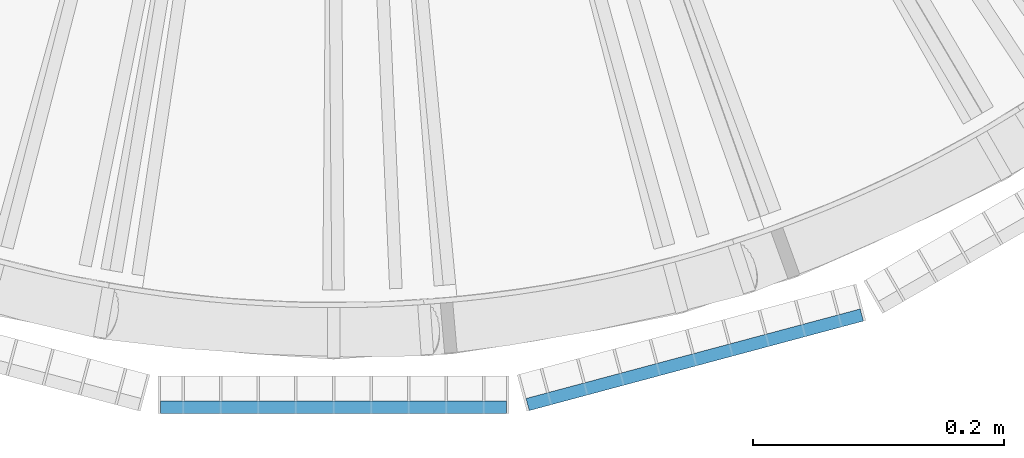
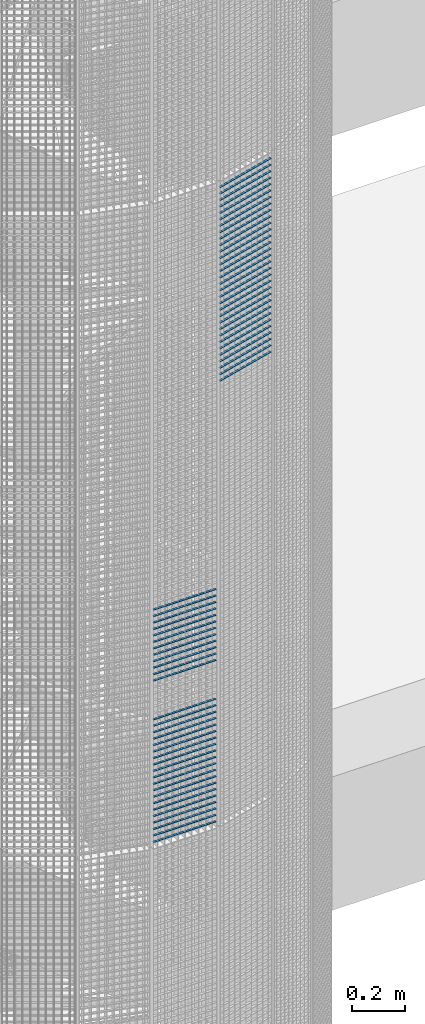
# One storey, part 389 of 1148: 63 beams, 2 elements without a shape of their own.
"""IFC2X3 building model written with IfcOpenShell, lengths in millimetres."""

from ifc_helpers import new_model, si_unit, frame, origin_with_axes, origin_2d_with_axis, place, context, subcontext, project, spatial, rectangle, extrude, material, type_object, element, aggregate, save


model = new_model("IFC2X3")

# Units and contexts
model_context = context("Model", 3, precision=1e-05, world=origin_with_axes())
body_context = subcontext(model_context, "Body", "Model", "MODEL_VIEW")
ifc_project = project(units=[si_unit("LENGTHUNIT", "METRE", prefix="MILLI"), si_unit("AREAUNIT", "SQUARE_METRE"), si_unit("VOLUMEUNIT", "CUBIC_METRE"), si_unit("MASSUNIT", "GRAM", prefix="KILO"), si_unit("TIMEUNIT", "SECOND"), si_unit("PLANEANGLEUNIT", "RADIAN"), si_unit("SOLIDANGLEUNIT", "STERADIAN"), si_unit("THERMODYNAMICTEMPERATUREUNIT", "DEGREE_CELSIUS"), si_unit("LUMINOUSINTENSITYUNIT", "LUMEN")], contexts=[model_context])

# Site, building, storey
site_placement = place(None, origin_with_axes())
site = spatial("IfcSite", under=ifc_project, at=site_placement, Name="Undefined", CompositionType="ELEMENT")
building_placement = place(site_placement, origin_with_axes())
building = spatial("IfcBuilding", under=site, at=building_placement, Name="Undefined", CompositionType="ELEMENT")
storey_placement = place(building_placement, origin_with_axes())
storey = spatial("IfcBuildingStorey", under=building, at=storey_placement, Name="Undefined", CompositionType="ELEMENT", Elevation=0.0)

# Assembly, beams
assembly_1_placement = place(storey_placement, origin_with_axes())
assembly_1 = element("IfcElementAssembly", 1, at=assembly_1_placement, inside=storey, Name="BORDURE", AssemblyPlace="NOTDEFINED", PredefinedType="NOTDEFINED")
ifc_material = material(Name="STEEL/S235JR")
beam_type = type_object("IfcBeamType", Name="PL2*10", PredefinedType="NOTDEFINED")
beam_1_placement = place(assembly_1_placement, frame((21737.9960033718, -1113.47999999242, 9780.0), z_axis=(0.0, -1.0, 0.0), x_axis=(-1.0, 0.0, 0.0)))
beam_1 = element("IfcBeam", 2, at=beam_1_placement, type_object=beam_type, material=ifc_material, Name="ENTRETOISE", context=body_context, shape_type="SweptSolid", body=[
    extrude(rectangle(XDim=2.0, YDim=10.0, at=origin_2d_with_axis()), frame((275.999999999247, 9.09494701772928e-13, 1.53210777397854e-14), z_axis=(-1.0, 0.0, 0.0), x_axis=(0.0, -1.0, 0.0)), (0.0, 0.0, 1.0), 276.0),
])
beam_2_placement = place(assembly_1_placement, frame((21737.9960033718, -1113.47999999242, 9600.0), z_axis=(0.0, -1.0, 0.0), x_axis=(-1.0, 0.0, 0.0)))
beam_2 = element("IfcBeam", 3, at=beam_2_placement, type_object=beam_type, material=ifc_material, Name="ENTRETOISE", context=body_context, shape_type="SweptSolid", body=[
    extrude(rectangle(XDim=2.0, YDim=10.0, at=origin_2d_with_axis()), frame((275.999999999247, 9.09494701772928e-13, 1.53210777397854e-14), z_axis=(-1.0, 0.0, 0.0), x_axis=(0.0, -1.0, 0.0)), (0.0, 0.0, 1.0), 276.0),
])
beam_3_placement = place(assembly_1_placement, frame((21737.9960033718, -1113.47999999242, 9810.0), z_axis=(0.0, -1.0, 0.0), x_axis=(-1.0, 0.0, 0.0)))
beam_3 = element("IfcBeam", 4, at=beam_3_placement, type_object=beam_type, material=ifc_material, Name="ENTRETOISE", context=body_context, shape_type="SweptSolid", body=[
    extrude(rectangle(XDim=2.0, YDim=10.0, at=origin_2d_with_axis()), frame((275.999999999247, 9.09494701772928e-13, 1.53210777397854e-14), z_axis=(-1.0, 0.0, 0.0), x_axis=(0.0, -1.0, 0.0)), (0.0, 0.0, 1.0), 276.0),
])
beam_4_placement = place(assembly_1_placement, frame((21737.9960033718, -1113.47999999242, 9570.0), z_axis=(0.0, -1.0, 0.0), x_axis=(-1.0, 0.0, 0.0)))
beam_4 = element("IfcBeam", 5, at=beam_4_placement, type_object=beam_type, material=ifc_material, Name="ENTRETOISE", context=body_context, shape_type="SweptSolid", body=[
    extrude(rectangle(XDim=2.0, YDim=10.0, at=origin_2d_with_axis()), frame((275.999999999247, 9.09494701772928e-13, 1.53210777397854e-14), z_axis=(-1.0, 0.0, 0.0), x_axis=(0.0, -1.0, 0.0)), (0.0, 0.0, 1.0), 276.0),
])
beam_5_placement = place(assembly_1_placement, frame((21737.9960033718, -1113.47999999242, 9540.0), z_axis=(0.0, -1.0, 0.0), x_axis=(-1.0, 0.0, 0.0)))
beam_5 = element("IfcBeam", 6, at=beam_5_placement, type_object=beam_type, material=ifc_material, Name="ENTRETOISE", context=body_context, shape_type="SweptSolid", body=[
    extrude(rectangle(XDim=2.0, YDim=10.0, at=origin_2d_with_axis()), frame((275.999999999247, 9.09494701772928e-13, 1.53210777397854e-14), z_axis=(-1.0, 0.0, 0.0), x_axis=(0.0, -1.0, 0.0)), (0.0, 0.0, 1.0), 276.0),
])
beam_6_placement = place(assembly_1_placement, frame((21737.9960033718, -1113.47999999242, 9840.0), z_axis=(0.0, -1.0, 0.0), x_axis=(-1.0, 0.0, 0.0)))
beam_6 = element("IfcBeam", 7, at=beam_6_placement, type_object=beam_type, material=ifc_material, Name="ENTRETOISE", context=body_context, shape_type="SweptSolid", body=[
    extrude(rectangle(XDim=2.0, YDim=10.0, at=origin_2d_with_axis()), frame((275.999999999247, 9.09494701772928e-13, 1.53210777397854e-14), z_axis=(-1.0, 0.0, 0.0), x_axis=(0.0, -1.0, 0.0)), (0.0, 0.0, 1.0), 276.0),
])
beam_7_placement = place(assembly_1_placement, frame((21737.9960033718, -1113.47999999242, 9510.0), z_axis=(0.0, -1.0, 0.0), x_axis=(-1.0, 0.0, 0.0)))
beam_7 = element("IfcBeam", 8, at=beam_7_placement, type_object=beam_type, material=ifc_material, Name="ENTRETOISE", context=body_context, shape_type="SweptSolid", body=[
    extrude(rectangle(XDim=2.0, YDim=10.0, at=origin_2d_with_axis()), frame((275.999999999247, 9.09494701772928e-13, 1.53210777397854e-14), z_axis=(-1.0, 0.0, 0.0), x_axis=(0.0, -1.0, 0.0)), (0.0, 0.0, 1.0), 276.0),
])
beam_8_placement = place(assembly_1_placement, frame((21737.9960033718, -1113.47999999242, 9480.0), z_axis=(0.0, -1.0, 0.0), x_axis=(-1.0, 0.0, 0.0)))
beam_8 = element("IfcBeam", 9, at=beam_8_placement, type_object=beam_type, material=ifc_material, Name="ENTRETOISE", context=body_context, shape_type="SweptSolid", body=[
    extrude(rectangle(XDim=2.0, YDim=10.0, at=origin_2d_with_axis()), frame((275.999999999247, 9.09494701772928e-13, 1.53210777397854e-14), z_axis=(-1.0, 0.0, 0.0), x_axis=(0.0, -1.0, 0.0)), (0.0, 0.0, 1.0), 276.0),
])
beam_9_placement = place(assembly_1_placement, frame((21737.9960033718, -1113.47999999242, 9870.0), z_axis=(0.0, -1.0, 0.0), x_axis=(-1.0, 0.0, 0.0)))
beam_9 = element("IfcBeam", 10, at=beam_9_placement, type_object=beam_type, material=ifc_material, Name="ENTRETOISE", context=body_context, shape_type="SweptSolid", body=[
    extrude(rectangle(XDim=2.0, YDim=10.0, at=origin_2d_with_axis()), frame((275.999999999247, 9.09494701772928e-13, 1.53210777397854e-14), z_axis=(-1.0, 0.0, 0.0), x_axis=(0.0, -1.0, 0.0)), (0.0, 0.0, 1.0), 276.0),
])
beam_10_placement = place(assembly_1_placement, frame((21737.9960033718, -1113.47999999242, 9450.0), z_axis=(0.0, -1.0, 0.0), x_axis=(-1.0, 0.0, 0.0)))
beam_10 = element("IfcBeam", 11, at=beam_10_placement, type_object=beam_type, material=ifc_material, Name="ENTRETOISE", context=body_context, shape_type="SweptSolid", body=[
    extrude(rectangle(XDim=2.0, YDim=10.0, at=origin_2d_with_axis()), frame((275.999999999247, 9.09494701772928e-13, 1.53210777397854e-14), z_axis=(-1.0, 0.0, 0.0), x_axis=(0.0, -1.0, 0.0)), (0.0, 0.0, 1.0), 276.0),
])
beam_11_placement = place(assembly_1_placement, frame((21737.9960033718, -1113.47999999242, 9420.0), z_axis=(0.0, -1.0, 0.0), x_axis=(-1.0, 0.0, 0.0)))
beam_11 = element("IfcBeam", 12, at=beam_11_placement, type_object=beam_type, material=ifc_material, Name="ENTRETOISE", context=body_context, shape_type="SweptSolid", body=[
    extrude(rectangle(XDim=2.0, YDim=10.0, at=origin_2d_with_axis()), frame((275.999999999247, 9.09494701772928e-13, 1.53210777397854e-14), z_axis=(-1.0, 0.0, 0.0), x_axis=(0.0, -1.0, 0.0)), (0.0, 0.0, 1.0), 276.0),
])
beam_12_placement = place(assembly_1_placement, frame((21737.9960033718, -1113.47999999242, 9900.0), z_axis=(0.0, -1.0, 0.0), x_axis=(-1.0, 0.0, 0.0)))
beam_12 = element("IfcBeam", 13, at=beam_12_placement, type_object=beam_type, material=ifc_material, Name="ENTRETOISE", context=body_context, shape_type="SweptSolid", body=[
    extrude(rectangle(XDim=2.0, YDim=10.0, at=origin_2d_with_axis()), frame((275.999999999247, 9.09494701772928e-13, 1.53210777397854e-14), z_axis=(-1.0, 0.0, 0.0), x_axis=(0.0, -1.0, 0.0)), (0.0, 0.0, 1.0), 276.0),
])
beam_13_placement = place(assembly_1_placement, frame((21737.9960033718, -1113.47999999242, 9390.0), z_axis=(0.0, -1.0, 0.0), x_axis=(-1.0, 0.0, 0.0)))
beam_13 = element("IfcBeam", 14, at=beam_13_placement, type_object=beam_type, material=ifc_material, Name="ENTRETOISE", context=body_context, shape_type="SweptSolid", body=[
    extrude(rectangle(XDim=2.0, YDim=10.0, at=origin_2d_with_axis()), frame((275.999999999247, 9.09494701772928e-13, 1.53210777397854e-14), z_axis=(-1.0, 0.0, 0.0), x_axis=(0.0, -1.0, 0.0)), (0.0, 0.0, 1.0), 276.0),
])
beam_14_placement = place(assembly_1_placement, frame((21737.9960033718, -1113.47999999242, 9930.0), z_axis=(0.0, -1.0, 0.0), x_axis=(-1.0, 0.0, 0.0)))
beam_14 = element("IfcBeam", 15, at=beam_14_placement, type_object=beam_type, material=ifc_material, Name="ENTRETOISE", context=body_context, shape_type="SweptSolid", body=[
    extrude(rectangle(XDim=2.0, YDim=10.0, at=origin_2d_with_axis()), frame((275.999999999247, 9.09494701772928e-13, 1.53210777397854e-14), z_axis=(-1.0, 0.0, 0.0), x_axis=(0.0, -1.0, 0.0)), (0.0, 0.0, 1.0), 276.0),
])
beam_15_placement = place(assembly_1_placement, frame((21737.9960033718, -1113.47999999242, 9360.0), z_axis=(0.0, -1.0, 0.0), x_axis=(-1.0, 0.0, 0.0)))
beam_15 = element("IfcBeam", 16, at=beam_15_placement, type_object=beam_type, material=ifc_material, Name="ENTRETOISE", context=body_context, shape_type="SweptSolid", body=[
    extrude(rectangle(XDim=2.0, YDim=10.0, at=origin_2d_with_axis()), frame((275.999999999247, 9.09494701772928e-13, 1.53210777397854e-14), z_axis=(-1.0, 0.0, 0.0), x_axis=(0.0, -1.0, 0.0)), (0.0, 0.0, 1.0), 276.0),
])
beam_16_placement = place(assembly_1_placement, frame((21737.9960033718, -1113.47999999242, 9330.0), z_axis=(0.0, -1.0, 0.0), x_axis=(-1.0, 0.0, 0.0)))
beam_16 = element("IfcBeam", 17, at=beam_16_placement, type_object=beam_type, material=ifc_material, Name="ENTRETOISE", context=body_context, shape_type="SweptSolid", body=[
    extrude(rectangle(XDim=2.0, YDim=10.0, at=origin_2d_with_axis()), frame((275.999999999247, 9.09494701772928e-13, 1.53210777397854e-14), z_axis=(-1.0, 0.0, 0.0), x_axis=(0.0, -1.0, 0.0)), (0.0, 0.0, 1.0), 276.0),
])
beam_17_placement = place(assembly_1_placement, frame((21737.9960033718, -1113.47999999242, 9960.0), z_axis=(0.0, -1.0, 0.0), x_axis=(-1.0, 0.0, 0.0)))
beam_17 = element("IfcBeam", 18, at=beam_17_placement, type_object=beam_type, material=ifc_material, Name="ENTRETOISE", context=body_context, shape_type="SweptSolid", body=[
    extrude(rectangle(XDim=2.0, YDim=10.0, at=origin_2d_with_axis()), frame((275.999999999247, 9.09494701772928e-13, 1.53210777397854e-14), z_axis=(-1.0, 0.0, 0.0), x_axis=(0.0, -1.0, 0.0)), (0.0, 0.0, 1.0), 276.0),
])
beam_18_placement = place(assembly_1_placement, frame((21737.9960033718, -1113.47999999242, 9300.0), z_axis=(0.0, -1.0, 0.0), x_axis=(-1.0, 0.0, 0.0)))
beam_18 = element("IfcBeam", 19, at=beam_18_placement, type_object=beam_type, material=ifc_material, Name="ENTRETOISE", context=body_context, shape_type="SweptSolid", body=[
    extrude(rectangle(XDim=2.0, YDim=10.0, at=origin_2d_with_axis()), frame((275.999999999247, 9.09494701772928e-13, 1.53210777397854e-14), z_axis=(-1.0, 0.0, 0.0), x_axis=(0.0, -1.0, 0.0)), (0.0, 0.0, 1.0), 276.0),
])
beam_19_placement = place(assembly_1_placement, frame((21737.9960033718, -1113.47999999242, 9270.0), z_axis=(0.0, -1.0, 0.0), x_axis=(-1.0, 0.0, 0.0)))
beam_19 = element("IfcBeam", 20, at=beam_19_placement, type_object=beam_type, material=ifc_material, Name="ENTRETOISE", context=body_context, shape_type="SweptSolid", body=[
    extrude(rectangle(XDim=2.0, YDim=10.0, at=origin_2d_with_axis()), frame((275.999999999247, 9.09494701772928e-13, 1.53210777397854e-14), z_axis=(-1.0, 0.0, 0.0), x_axis=(0.0, -1.0, 0.0)), (0.0, 0.0, 1.0), 276.0),
])
beam_20_placement = place(assembly_1_placement, frame((21737.9960033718, -1113.47999999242, 9990.0), z_axis=(0.0, -1.0, 0.0), x_axis=(-1.0, 0.0, 0.0)))
beam_20 = element("IfcBeam", 21, at=beam_20_placement, type_object=beam_type, material=ifc_material, Name="ENTRETOISE", context=body_context, shape_type="SweptSolid", body=[
    extrude(rectangle(XDim=2.0, YDim=10.0, at=origin_2d_with_axis()), frame((275.999999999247, 9.09494701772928e-13, 1.53210777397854e-14), z_axis=(-1.0, 0.0, 0.0), x_axis=(0.0, -1.0, 0.0)), (0.0, 0.0, 1.0), 276.0),
])
beam_21_placement = place(assembly_1_placement, frame((21737.9960033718, -1113.47999999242, 9240.0), z_axis=(0.0, -1.0, 0.0), x_axis=(-1.0, 0.0, 0.0)))
beam_21 = element("IfcBeam", 22, at=beam_21_placement, type_object=beam_type, material=ifc_material, Name="ENTRETOISE", context=body_context, shape_type="SweptSolid", body=[
    extrude(rectangle(XDim=2.0, YDim=10.0, at=origin_2d_with_axis()), frame((275.999999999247, 9.09494701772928e-13, 1.53210777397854e-14), z_axis=(-1.0, 0.0, 0.0), x_axis=(0.0, -1.0, 0.0)), (0.0, 0.0, 1.0), 276.0),
])
beam_22_placement = place(assembly_1_placement, frame((21737.9960033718, -1113.47999999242, 10020.0), z_axis=(0.0, -1.0, 0.0), x_axis=(-1.0, 0.0, 0.0)))
beam_22 = element("IfcBeam", 23, at=beam_22_placement, type_object=beam_type, material=ifc_material, Name="ENTRETOISE", context=body_context, shape_type="SweptSolid", body=[
    extrude(rectangle(XDim=2.0, YDim=10.0, at=origin_2d_with_axis()), frame((275.999999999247, 9.09494701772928e-13, 1.53210777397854e-14), z_axis=(-1.0, 0.0, 0.0), x_axis=(0.0, -1.0, 0.0)), (0.0, 0.0, 1.0), 276.0),
])
beam_23_placement = place(assembly_1_placement, frame((21737.9960033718, -1113.47999999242, 9210.0), z_axis=(0.0, -1.0, 0.0), x_axis=(-1.0, 0.0, 0.0)))
beam_23 = element("IfcBeam", 24, at=beam_23_placement, type_object=beam_type, material=ifc_material, Name="ENTRETOISE", context=body_context, shape_type="SweptSolid", body=[
    extrude(rectangle(XDim=2.0, YDim=10.0, at=origin_2d_with_axis()), frame((275.999999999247, 9.09494701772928e-13, 1.53210777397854e-14), z_axis=(-1.0, 0.0, 0.0), x_axis=(0.0, -1.0, 0.0)), (0.0, 0.0, 1.0), 276.0),
])
beam_24_placement = place(assembly_1_placement, frame((21737.9960033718, -1113.47999999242, 9180.0), z_axis=(0.0, -1.0, 0.0), x_axis=(-1.0, 0.0, 0.0)))
beam_24 = element("IfcBeam", 25, at=beam_24_placement, type_object=beam_type, material=ifc_material, Name="ENTRETOISE", context=body_context, shape_type="SweptSolid", body=[
    extrude(rectangle(XDim=2.0, YDim=10.0, at=origin_2d_with_axis()), frame((275.999999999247, 9.09494701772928e-13, 1.53210777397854e-14), z_axis=(-1.0, 0.0, 0.0), x_axis=(0.0, -1.0, 0.0)), (0.0, 0.0, 1.0), 276.0),
])
beam_25_placement = place(assembly_1_placement, frame((21737.9960033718, -1113.47999999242, 10050.0), z_axis=(0.0, -1.0, 0.0), x_axis=(-1.0, 0.0, 0.0)))
beam_25 = element("IfcBeam", 26, at=beam_25_placement, type_object=beam_type, material=ifc_material, Name="ENTRETOISE", context=body_context, shape_type="SweptSolid", body=[
    extrude(rectangle(XDim=2.0, YDim=10.0, at=origin_2d_with_axis()), frame((275.999999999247, 9.09494701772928e-13, 1.53210777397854e-14), z_axis=(-1.0, 0.0, 0.0), x_axis=(0.0, -1.0, 0.0)), (0.0, 0.0, 1.0), 276.0),
])
beam_26_placement = place(assembly_1_placement, frame((21737.9960033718, -1113.47999999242, 9150.0), z_axis=(0.0, -1.0, 0.0), x_axis=(-1.0, 0.0, 0.0)))
beam_26 = element("IfcBeam", 27, at=beam_26_placement, type_object=beam_type, material=ifc_material, Name="ENTRETOISE", context=body_context, shape_type="SweptSolid", body=[
    extrude(rectangle(XDim=2.0, YDim=10.0, at=origin_2d_with_axis()), frame((275.999999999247, 9.09494701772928e-13, 1.53210777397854e-14), z_axis=(-1.0, 0.0, 0.0), x_axis=(0.0, -1.0, 0.0)), (0.0, 0.0, 1.0), 276.0),
])
beam_27_placement = place(assembly_1_placement, frame((21737.9960033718, -1113.47999999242, 9120.0), z_axis=(0.0, -1.0, 0.0), x_axis=(-1.0, 0.0, 0.0)))
beam_27 = element("IfcBeam", 28, at=beam_27_placement, type_object=beam_type, material=ifc_material, Name="ENTRETOISE", context=body_context, shape_type="SweptSolid", body=[
    extrude(rectangle(XDim=2.0, YDim=10.0, at=origin_2d_with_axis()), frame((275.999999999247, 9.09494701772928e-13, 1.53210777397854e-14), z_axis=(-1.0, 0.0, 0.0), x_axis=(0.0, -1.0, 0.0)), (0.0, 0.0, 1.0), 276.0),
])
beam_28_placement = place(assembly_1_placement, frame((21737.9960033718, -1113.47999999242, 10080.0), z_axis=(0.0, -1.0, 0.0), x_axis=(-1.0, 0.0, 0.0)))
beam_28 = element("IfcBeam", 29, at=beam_28_placement, type_object=beam_type, material=ifc_material, Name="ENTRETOISE", context=body_context, shape_type="SweptSolid", body=[
    extrude(rectangle(XDim=2.0, YDim=10.0, at=origin_2d_with_axis()), frame((275.999999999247, 9.09494701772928e-13, 1.53210777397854e-14), z_axis=(-1.0, 0.0, 0.0), x_axis=(0.0, -1.0, 0.0)), (0.0, 0.0, 1.0), 276.0),
])
beam_29_placement = place(assembly_1_placement, frame((21737.9960033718, -1113.47999999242, 9090.0), z_axis=(0.0, -1.0, 0.0), x_axis=(-1.0, 0.0, 0.0)))
beam_29 = element("IfcBeam", 30, at=beam_29_placement, type_object=beam_type, material=ifc_material, Name="ENTRETOISE", context=body_context, shape_type="SweptSolid", body=[
    extrude(rectangle(XDim=2.0, YDim=10.0, at=origin_2d_with_axis()), frame((275.999999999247, 9.09494701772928e-13, 1.53210777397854e-14), z_axis=(-1.0, 0.0, 0.0), x_axis=(0.0, -1.0, 0.0)), (0.0, 0.0, 1.0), 276.0),
])
beam_30_placement = place(assembly_1_placement, frame((21737.9960033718, -1113.47999999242, 9060.0), z_axis=(0.0, -1.0, 0.0), x_axis=(-1.0, 0.0, 0.0)))
beam_30 = element("IfcBeam", 31, at=beam_30_placement, type_object=beam_type, material=ifc_material, Name="ENTRETOISE", context=body_context, shape_type="SweptSolid", body=[
    extrude(rectangle(XDim=2.0, YDim=10.0, at=origin_2d_with_axis()), frame((275.999999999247, 9.09494701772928e-13, 1.53210777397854e-14), z_axis=(-1.0, 0.0, 0.0), x_axis=(0.0, -1.0, 0.0)), (0.0, 0.0, 1.0), 276.0),
])
beam_31_placement = place(assembly_1_placement, frame((21737.9960033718, -1113.47999999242, 10110.0), z_axis=(0.0, -1.0, 0.0), x_axis=(-1.0, 0.0, 0.0)))
beam_31 = element("IfcBeam", 32, at=beam_31_placement, type_object=beam_type, material=ifc_material, Name="ENTRETOISE", context=body_context, shape_type="SweptSolid", body=[
    extrude(rectangle(XDim=2.0, YDim=10.0, at=origin_2d_with_axis()), frame((275.999999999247, 9.09494701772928e-13, 1.53210777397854e-14), z_axis=(-1.0, 0.0, 0.0), x_axis=(0.0, -1.0, 0.0)), (0.0, 0.0, 1.0), 276.0),
])
beam_32_placement = place(assembly_1_placement, frame((21737.9960033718, -1113.47999999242, 9030.0), z_axis=(0.0, -1.0, 0.0), x_axis=(-1.0, 0.0, 0.0)))
beam_32 = element("IfcBeam", 33, at=beam_32_placement, type_object=beam_type, material=ifc_material, Name="ENTRETOISE", context=body_context, shape_type="SweptSolid", body=[
    extrude(rectangle(XDim=2.0, YDim=10.0, at=origin_2d_with_axis()), frame((275.999999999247, 9.09494701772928e-13, 1.53210777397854e-14), z_axis=(-1.0, 0.0, 0.0), x_axis=(0.0, -1.0, 0.0)), (0.0, 0.0, 1.0), 276.0),
])
aggregate(assembly_1, [beam_1, beam_2, beam_3, beam_4, beam_5, beam_6, beam_7, beam_8, beam_9, beam_10, beam_11, beam_12, beam_13, beam_14, beam_15, beam_16, beam_17, beam_18, beam_19, beam_20, beam_21, beam_22, beam_23, beam_24, beam_25, beam_26, beam_27, beam_28, beam_29, beam_30, beam_31, beam_32])

assembly_2_placement = place(storey_placement, origin_with_axes())
assembly_2 = element("IfcElementAssembly", 34, at=assembly_2_placement, inside=storey, Name="BORDURE", AssemblyPlace="NOTDEFINED", PredefinedType="NOTDEFINED")
beam_33_placement = place(assembly_2_placement, frame((22021.4837339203, -1039.82309522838, 11970.0), z_axis=(0.258819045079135, -0.965925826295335, 0.0), x_axis=(-0.965925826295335, -0.258819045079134, 0.0)))
beam_33 = element("IfcBeam", 35, at=beam_33_placement, type_object=beam_type, material=ifc_material, Name="ENTRETOISE", context=body_context, shape_type="SweptSolid", body=[
    extrude(rectangle(XDim=2.0, YDim=10.0, at=origin_2d_with_axis()), frame((275.999999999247, 9.09494701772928e-13, 1.53210777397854e-14), z_axis=(-1.0, 0.0, 0.0), x_axis=(0.0, -1.0, 0.0)), (0.0, 0.0, 1.0), 276.0),
])
beam_34_placement = place(assembly_2_placement, frame((22021.4837339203, -1039.82309522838, 11940.0), z_axis=(0.258819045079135, -0.965925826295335, 0.0), x_axis=(-0.965925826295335, -0.258819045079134, 0.0)))
beam_34 = element("IfcBeam", 36, at=beam_34_placement, type_object=beam_type, material=ifc_material, Name="ENTRETOISE", context=body_context, shape_type="SweptSolid", body=[
    extrude(rectangle(XDim=2.0, YDim=10.0, at=origin_2d_with_axis()), frame((275.999999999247, 9.09494701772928e-13, 1.53210777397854e-14), z_axis=(-1.0, 0.0, 0.0), x_axis=(0.0, -1.0, 0.0)), (0.0, 0.0, 1.0), 276.0),
])
beam_35_placement = place(assembly_2_placement, frame((22021.4837339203, -1039.82309522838, 11910.0), z_axis=(0.258819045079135, -0.965925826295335, 0.0), x_axis=(-0.965925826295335, -0.258819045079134, 0.0)))
beam_35 = element("IfcBeam", 37, at=beam_35_placement, type_object=beam_type, material=ifc_material, Name="ENTRETOISE", context=body_context, shape_type="SweptSolid", body=[
    extrude(rectangle(XDim=2.0, YDim=10.0, at=origin_2d_with_axis()), frame((275.999999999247, 9.09494701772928e-13, 1.53210777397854e-14), z_axis=(-1.0, 0.0, 0.0), x_axis=(0.0, -1.0, 0.0)), (0.0, 0.0, 1.0), 276.0),
])
beam_36_placement = place(assembly_2_placement, frame((22021.4837339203, -1039.82309522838, 11880.0), z_axis=(0.258819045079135, -0.965925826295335, 0.0), x_axis=(-0.965925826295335, -0.258819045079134, 0.0)))
beam_36 = element("IfcBeam", 38, at=beam_36_placement, type_object=beam_type, material=ifc_material, Name="ENTRETOISE", context=body_context, shape_type="SweptSolid", body=[
    extrude(rectangle(XDim=2.0, YDim=10.0, at=origin_2d_with_axis()), frame((275.999999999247, 9.09494701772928e-13, 1.53210777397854e-14), z_axis=(-1.0, 0.0, 0.0), x_axis=(0.0, -1.0, 0.0)), (0.0, 0.0, 1.0), 276.0),
])
beam_37_placement = place(assembly_2_placement, frame((22021.4837339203, -1039.82309522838, 11850.0), z_axis=(0.258819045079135, -0.965925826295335, 0.0), x_axis=(-0.965925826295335, -0.258819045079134, 0.0)))
beam_37 = element("IfcBeam", 39, at=beam_37_placement, type_object=beam_type, material=ifc_material, Name="ENTRETOISE", context=body_context, shape_type="SweptSolid", body=[
    extrude(rectangle(XDim=2.0, YDim=10.0, at=origin_2d_with_axis()), frame((275.999999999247, 9.09494701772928e-13, 1.53210777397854e-14), z_axis=(-1.0, 0.0, 0.0), x_axis=(0.0, -1.0, 0.0)), (0.0, 0.0, 1.0), 276.0),
])
beam_38_placement = place(assembly_2_placement, frame((22021.4837339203, -1039.82309522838, 11820.0), z_axis=(0.258819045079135, -0.965925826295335, 0.0), x_axis=(-0.965925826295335, -0.258819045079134, 0.0)))
beam_38 = element("IfcBeam", 40, at=beam_38_placement, type_object=beam_type, material=ifc_material, Name="ENTRETOISE", context=body_context, shape_type="SweptSolid", body=[
    extrude(rectangle(XDim=2.0, YDim=10.0, at=origin_2d_with_axis()), frame((275.999999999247, 9.09494701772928e-13, 1.53210777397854e-14), z_axis=(-1.0, 0.0, 0.0), x_axis=(0.0, -1.0, 0.0)), (0.0, 0.0, 1.0), 276.0),
])
beam_39_placement = place(assembly_2_placement, frame((22021.4837339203, -1039.82309522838, 11790.0), z_axis=(0.258819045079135, -0.965925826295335, 0.0), x_axis=(-0.965925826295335, -0.258819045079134, 0.0)))
beam_39 = element("IfcBeam", 41, at=beam_39_placement, type_object=beam_type, material=ifc_material, Name="ENTRETOISE", context=body_context, shape_type="SweptSolid", body=[
    extrude(rectangle(XDim=2.0, YDim=10.0, at=origin_2d_with_axis()), frame((275.999999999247, 9.09494701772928e-13, 1.53210777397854e-14), z_axis=(-1.0, 0.0, 0.0), x_axis=(0.0, -1.0, 0.0)), (0.0, 0.0, 1.0), 276.0),
])
beam_40_placement = place(assembly_2_placement, frame((22021.4837339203, -1039.82309522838, 11760.0), z_axis=(0.258819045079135, -0.965925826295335, 0.0), x_axis=(-0.965925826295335, -0.258819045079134, 0.0)))
beam_40 = element("IfcBeam", 42, at=beam_40_placement, type_object=beam_type, material=ifc_material, Name="ENTRETOISE", context=body_context, shape_type="SweptSolid", body=[
    extrude(rectangle(XDim=2.0, YDim=10.0, at=origin_2d_with_axis()), frame((275.999999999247, 9.09494701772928e-13, 1.53210777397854e-14), z_axis=(-1.0, 0.0, 0.0), x_axis=(0.0, -1.0, 0.0)), (0.0, 0.0, 1.0), 276.0),
])
beam_41_placement = place(assembly_2_placement, frame((22021.4837339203, -1039.82309522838, 11730.0), z_axis=(0.258819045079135, -0.965925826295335, 0.0), x_axis=(-0.965925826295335, -0.258819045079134, 0.0)))
beam_41 = element("IfcBeam", 43, at=beam_41_placement, type_object=beam_type, material=ifc_material, Name="ENTRETOISE", context=body_context, shape_type="SweptSolid", body=[
    extrude(rectangle(XDim=2.0, YDim=10.0, at=origin_2d_with_axis()), frame((275.999999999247, 9.09494701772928e-13, 1.53210777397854e-14), z_axis=(-1.0, 0.0, 0.0), x_axis=(0.0, -1.0, 0.0)), (0.0, 0.0, 1.0), 276.0),
])
beam_42_placement = place(assembly_2_placement, frame((22021.4837339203, -1039.82309522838, 11700.0), z_axis=(0.258819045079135, -0.965925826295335, 0.0), x_axis=(-0.965925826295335, -0.258819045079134, 0.0)))
beam_42 = element("IfcBeam", 44, at=beam_42_placement, type_object=beam_type, material=ifc_material, Name="ENTRETOISE", context=body_context, shape_type="SweptSolid", body=[
    extrude(rectangle(XDim=2.0, YDim=10.0, at=origin_2d_with_axis()), frame((275.999999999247, 9.09494701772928e-13, 1.53210777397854e-14), z_axis=(-1.0, 0.0, 0.0), x_axis=(0.0, -1.0, 0.0)), (0.0, 0.0, 1.0), 276.0),
])
beam_43_placement = place(assembly_2_placement, frame((22021.4837339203, -1039.82309522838, 11670.0), z_axis=(0.258819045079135, -0.965925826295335, 0.0), x_axis=(-0.965925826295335, -0.258819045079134, 0.0)))
beam_43 = element("IfcBeam", 45, at=beam_43_placement, type_object=beam_type, material=ifc_material, Name="ENTRETOISE", context=body_context, shape_type="SweptSolid", body=[
    extrude(rectangle(XDim=2.0, YDim=10.0, at=origin_2d_with_axis()), frame((275.999999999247, 9.09494701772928e-13, 1.53210777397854e-14), z_axis=(-1.0, 0.0, 0.0), x_axis=(0.0, -1.0, 0.0)), (0.0, 0.0, 1.0), 276.0),
])
beam_44_placement = place(assembly_2_placement, frame((22021.4837339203, -1039.82309522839, 11640.0), z_axis=(0.258819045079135, -0.965925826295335, 0.0), x_axis=(-0.965925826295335, -0.258819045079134, 0.0)))
beam_44 = element("IfcBeam", 46, at=beam_44_placement, type_object=beam_type, material=ifc_material, Name="ENTRETOISE", context=body_context, shape_type="SweptSolid", body=[
    extrude(rectangle(XDim=2.0, YDim=10.0, at=origin_2d_with_axis()), frame((275.999999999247, 9.09494701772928e-13, 1.53210777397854e-14), z_axis=(-1.0, 0.0, 0.0), x_axis=(0.0, -1.0, 0.0)), (0.0, 0.0, 1.0), 276.0),
])
beam_45_placement = place(assembly_2_placement, frame((22021.4837339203, -1039.82309522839, 11610.0), z_axis=(0.258819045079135, -0.965925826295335, 0.0), x_axis=(-0.965925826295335, -0.258819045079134, 0.0)))
beam_45 = element("IfcBeam", 47, at=beam_45_placement, type_object=beam_type, material=ifc_material, Name="ENTRETOISE", context=body_context, shape_type="SweptSolid", body=[
    extrude(rectangle(XDim=2.0, YDim=10.0, at=origin_2d_with_axis()), frame((275.999999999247, 9.09494701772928e-13, 1.53210777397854e-14), z_axis=(-1.0, 0.0, 0.0), x_axis=(0.0, -1.0, 0.0)), (0.0, 0.0, 1.0), 276.0),
])
beam_46_placement = place(assembly_2_placement, frame((22021.4837339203, -1039.82309522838, 11580.0), z_axis=(0.258819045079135, -0.965925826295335, 0.0), x_axis=(-0.965925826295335, -0.258819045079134, 0.0)))
beam_46 = element("IfcBeam", 48, at=beam_46_placement, type_object=beam_type, material=ifc_material, Name="ENTRETOISE", context=body_context, shape_type="SweptSolid", body=[
    extrude(rectangle(XDim=2.0, YDim=10.0, at=origin_2d_with_axis()), frame((275.999999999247, 9.09494701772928e-13, 1.53210777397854e-14), z_axis=(-1.0, 0.0, 0.0), x_axis=(0.0, -1.0, 0.0)), (0.0, 0.0, 1.0), 276.0),
])
beam_47_placement = place(assembly_2_placement, frame((22021.4837339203, -1039.82309522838, 11550.0), z_axis=(0.258819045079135, -0.965925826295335, 0.0), x_axis=(-0.965925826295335, -0.258819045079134, 0.0)))
beam_47 = element("IfcBeam", 49, at=beam_47_placement, type_object=beam_type, material=ifc_material, Name="ENTRETOISE", context=body_context, shape_type="SweptSolid", body=[
    extrude(rectangle(XDim=2.0, YDim=10.0, at=origin_2d_with_axis()), frame((275.999999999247, 9.09494701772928e-13, 1.53210777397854e-14), z_axis=(-1.0, 0.0, 0.0), x_axis=(0.0, -1.0, 0.0)), (0.0, 0.0, 1.0), 276.0),
])
beam_48_placement = place(assembly_2_placement, frame((22021.4837339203, -1039.82309522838, 11520.0), z_axis=(0.258819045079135, -0.965925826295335, 0.0), x_axis=(-0.965925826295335, -0.258819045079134, 0.0)))
beam_48 = element("IfcBeam", 50, at=beam_48_placement, type_object=beam_type, material=ifc_material, Name="ENTRETOISE", context=body_context, shape_type="SweptSolid", body=[
    extrude(rectangle(XDim=2.0, YDim=10.0, at=origin_2d_with_axis()), frame((275.999999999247, 9.09494701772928e-13, 1.53210777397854e-14), z_axis=(-1.0, 0.0, 0.0), x_axis=(0.0, -1.0, 0.0)), (0.0, 0.0, 1.0), 276.0),
])
beam_49_placement = place(assembly_2_placement, frame((22021.4837339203, -1039.82309522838, 11490.0), z_axis=(0.258819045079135, -0.965925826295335, 0.0), x_axis=(-0.965925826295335, -0.258819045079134, 0.0)))
beam_49 = element("IfcBeam", 51, at=beam_49_placement, type_object=beam_type, material=ifc_material, Name="ENTRETOISE", context=body_context, shape_type="SweptSolid", body=[
    extrude(rectangle(XDim=2.0, YDim=10.0, at=origin_2d_with_axis()), frame((275.999999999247, 9.09494701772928e-13, 1.53210777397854e-14), z_axis=(-1.0, 0.0, 0.0), x_axis=(0.0, -1.0, 0.0)), (0.0, 0.0, 1.0), 276.0),
])
beam_50_placement = place(assembly_2_placement, frame((22021.4837339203, -1039.82309522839, 11460.0), z_axis=(0.258819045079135, -0.965925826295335, 0.0), x_axis=(-0.965925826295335, -0.258819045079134, 0.0)))
beam_50 = element("IfcBeam", 52, at=beam_50_placement, type_object=beam_type, material=ifc_material, Name="ENTRETOISE", context=body_context, shape_type="SweptSolid", body=[
    extrude(rectangle(XDim=2.0, YDim=10.0, at=origin_2d_with_axis()), frame((275.999999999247, 9.09494701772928e-13, 1.53210777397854e-14), z_axis=(-1.0, 0.0, 0.0), x_axis=(0.0, -1.0, 0.0)), (0.0, 0.0, 1.0), 276.0),
])
beam_51_placement = place(assembly_2_placement, frame((22021.4837339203, -1039.82309522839, 11430.0), z_axis=(0.258819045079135, -0.965925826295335, 0.0), x_axis=(-0.965925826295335, -0.258819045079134, 0.0)))
beam_51 = element("IfcBeam", 53, at=beam_51_placement, type_object=beam_type, material=ifc_material, Name="ENTRETOISE", context=body_context, shape_type="SweptSolid", body=[
    extrude(rectangle(XDim=2.0, YDim=10.0, at=origin_2d_with_axis()), frame((275.999999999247, 9.09494701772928e-13, 1.53210777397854e-14), z_axis=(-1.0, 0.0, 0.0), x_axis=(0.0, -1.0, 0.0)), (0.0, 0.0, 1.0), 276.0),
])
beam_52_placement = place(assembly_2_placement, frame((22021.4837339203, -1039.82309522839, 11400.0), z_axis=(0.258819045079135, -0.965925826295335, 0.0), x_axis=(-0.965925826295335, -0.258819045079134, 0.0)))
beam_52 = element("IfcBeam", 54, at=beam_52_placement, type_object=beam_type, material=ifc_material, Name="ENTRETOISE", context=body_context, shape_type="SweptSolid", body=[
    extrude(rectangle(XDim=2.0, YDim=10.0, at=origin_2d_with_axis()), frame((275.999999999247, 9.09494701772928e-13, 1.53210777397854e-14), z_axis=(-1.0, 0.0, 0.0), x_axis=(0.0, -1.0, 0.0)), (0.0, 0.0, 1.0), 276.0),
])
beam_53_placement = place(assembly_2_placement, frame((22021.4837339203, -1039.82309522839, 11370.0), z_axis=(0.258819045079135, -0.965925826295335, 0.0), x_axis=(-0.965925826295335, -0.258819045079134, 0.0)))
beam_53 = element("IfcBeam", 55, at=beam_53_placement, type_object=beam_type, material=ifc_material, Name="ENTRETOISE", context=body_context, shape_type="SweptSolid", body=[
    extrude(rectangle(XDim=2.0, YDim=10.0, at=origin_2d_with_axis()), frame((275.999999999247, 9.09494701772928e-13, 1.53210777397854e-14), z_axis=(-1.0, 0.0, 0.0), x_axis=(0.0, -1.0, 0.0)), (0.0, 0.0, 1.0), 276.0),
])
beam_54_placement = place(assembly_2_placement, frame((22021.4837339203, -1039.82309522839, 11340.0), z_axis=(0.258819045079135, -0.965925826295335, 0.0), x_axis=(-0.965925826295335, -0.258819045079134, 0.0)))
beam_54 = element("IfcBeam", 56, at=beam_54_placement, type_object=beam_type, material=ifc_material, Name="ENTRETOISE", context=body_context, shape_type="SweptSolid", body=[
    extrude(rectangle(XDim=2.0, YDim=10.0, at=origin_2d_with_axis()), frame((275.999999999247, 9.09494701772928e-13, 1.53210777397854e-14), z_axis=(-1.0, 0.0, 0.0), x_axis=(0.0, -1.0, 0.0)), (0.0, 0.0, 1.0), 276.0),
])
beam_55_placement = place(assembly_2_placement, frame((22021.4837339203, -1039.82309522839, 11310.0), z_axis=(0.258819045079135, -0.965925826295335, 0.0), x_axis=(-0.965925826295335, -0.258819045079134, 0.0)))
beam_55 = element("IfcBeam", 57, at=beam_55_placement, type_object=beam_type, material=ifc_material, Name="ENTRETOISE", context=body_context, shape_type="SweptSolid", body=[
    extrude(rectangle(XDim=2.0, YDim=10.0, at=origin_2d_with_axis()), frame((275.999999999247, 9.09494701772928e-13, 1.53210777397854e-14), z_axis=(-1.0, 0.0, 0.0), x_axis=(0.0, -1.0, 0.0)), (0.0, 0.0, 1.0), 276.0),
])
beam_56_placement = place(assembly_2_placement, frame((22021.4837339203, -1039.82309522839, 11280.0), z_axis=(0.258819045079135, -0.965925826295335, 0.0), x_axis=(-0.965925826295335, -0.258819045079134, 0.0)))
beam_56 = element("IfcBeam", 58, at=beam_56_placement, type_object=beam_type, material=ifc_material, Name="ENTRETOISE", context=body_context, shape_type="SweptSolid", body=[
    extrude(rectangle(XDim=2.0, YDim=10.0, at=origin_2d_with_axis()), frame((275.999999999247, 9.09494701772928e-13, 1.53210777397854e-14), z_axis=(-1.0, 0.0, 0.0), x_axis=(0.0, -1.0, 0.0)), (0.0, 0.0, 1.0), 276.0),
])
beam_57_placement = place(assembly_2_placement, frame((22021.4837339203, -1039.82309522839, 11250.0), z_axis=(0.258819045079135, -0.965925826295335, 0.0), x_axis=(-0.965925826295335, -0.258819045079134, 0.0)))
beam_57 = element("IfcBeam", 59, at=beam_57_placement, type_object=beam_type, material=ifc_material, Name="ENTRETOISE", context=body_context, shape_type="SweptSolid", body=[
    extrude(rectangle(XDim=2.0, YDim=10.0, at=origin_2d_with_axis()), frame((275.999999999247, 9.09494701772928e-13, 1.53210777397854e-14), z_axis=(-1.0, 0.0, 0.0), x_axis=(0.0, -1.0, 0.0)), (0.0, 0.0, 1.0), 276.0),
])
beam_58_placement = place(assembly_2_placement, frame((22021.4837339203, -1039.82309522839, 11220.0), z_axis=(0.258819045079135, -0.965925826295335, 0.0), x_axis=(-0.965925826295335, -0.258819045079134, 0.0)))
beam_58 = element("IfcBeam", 60, at=beam_58_placement, type_object=beam_type, material=ifc_material, Name="ENTRETOISE", context=body_context, shape_type="SweptSolid", body=[
    extrude(rectangle(XDim=2.0, YDim=10.0, at=origin_2d_with_axis()), frame((275.999999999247, 9.09494701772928e-13, 1.53210777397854e-14), z_axis=(-1.0, 0.0, 0.0), x_axis=(0.0, -1.0, 0.0)), (0.0, 0.0, 1.0), 276.0),
])
beam_59_placement = place(assembly_2_placement, frame((22021.4837339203, -1039.82309522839, 11190.0), z_axis=(0.258819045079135, -0.965925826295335, 0.0), x_axis=(-0.965925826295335, -0.258819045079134, 0.0)))
beam_59 = element("IfcBeam", 61, at=beam_59_placement, type_object=beam_type, material=ifc_material, Name="ENTRETOISE", context=body_context, shape_type="SweptSolid", body=[
    extrude(rectangle(XDim=2.0, YDim=10.0, at=origin_2d_with_axis()), frame((275.999999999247, 9.09494701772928e-13, 1.53210777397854e-14), z_axis=(-1.0, 0.0, 0.0), x_axis=(0.0, -1.0, 0.0)), (0.0, 0.0, 1.0), 276.0),
])
beam_60_placement = place(assembly_2_placement, frame((22021.4837339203, -1039.82309522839, 11160.0), z_axis=(0.258819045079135, -0.965925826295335, 0.0), x_axis=(-0.965925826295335, -0.258819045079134, 0.0)))
beam_60 = element("IfcBeam", 62, at=beam_60_placement, type_object=beam_type, material=ifc_material, Name="ENTRETOISE", context=body_context, shape_type="SweptSolid", body=[
    extrude(rectangle(XDim=2.0, YDim=10.0, at=origin_2d_with_axis()), frame((275.999999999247, 9.09494701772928e-13, 1.53210777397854e-14), z_axis=(-1.0, 0.0, 0.0), x_axis=(0.0, -1.0, 0.0)), (0.0, 0.0, 1.0), 276.0),
])
beam_61_placement = place(assembly_2_placement, frame((22021.4837339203, -1039.82309522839, 11130.0), z_axis=(0.258819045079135, -0.965925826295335, 0.0), x_axis=(-0.965925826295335, -0.258819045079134, 0.0)))
beam_61 = element("IfcBeam", 63, at=beam_61_placement, type_object=beam_type, material=ifc_material, Name="ENTRETOISE", context=body_context, shape_type="SweptSolid", body=[
    extrude(rectangle(XDim=2.0, YDim=10.0, at=origin_2d_with_axis()), frame((275.999999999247, 9.09494701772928e-13, 1.53210777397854e-14), z_axis=(-1.0, 0.0, 0.0), x_axis=(0.0, -1.0, 0.0)), (0.0, 0.0, 1.0), 276.0),
])
beam_62_placement = place(assembly_2_placement, frame((22021.4837339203, -1039.82309522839, 11100.0), z_axis=(0.258819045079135, -0.965925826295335, 0.0), x_axis=(-0.965925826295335, -0.258819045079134, 0.0)))
beam_62 = element("IfcBeam", 64, at=beam_62_placement, type_object=beam_type, material=ifc_material, Name="ENTRETOISE", context=body_context, shape_type="SweptSolid", body=[
    extrude(rectangle(XDim=2.0, YDim=10.0, at=origin_2d_with_axis()), frame((275.999999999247, 9.09494701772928e-13, 1.53210777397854e-14), z_axis=(-1.0, 0.0, 0.0), x_axis=(0.0, -1.0, 0.0)), (0.0, 0.0, 1.0), 276.0),
])
beam_63_placement = place(assembly_2_placement, frame((22021.4837339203, -1039.82309522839, 11070.0), z_axis=(0.258819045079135, -0.965925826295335, 0.0), x_axis=(-0.965925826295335, -0.258819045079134, 0.0)))
beam_63 = element("IfcBeam", 65, at=beam_63_placement, type_object=beam_type, material=ifc_material, Name="ENTRETOISE", context=body_context, shape_type="SweptSolid", body=[
    extrude(rectangle(XDim=2.0, YDim=10.0, at=origin_2d_with_axis()), frame((275.999999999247, 9.09494701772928e-13, 1.53210777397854e-14), z_axis=(-1.0, 0.0, 0.0), x_axis=(0.0, -1.0, 0.0)), (0.0, 0.0, 1.0), 276.0),
])
aggregate(assembly_2, [beam_33, beam_34, beam_35, beam_36, beam_37, beam_38, beam_39, beam_40, beam_41, beam_42, beam_43, beam_44, beam_45, beam_46, beam_47, beam_48, beam_49, beam_50, beam_51, beam_52, beam_53, beam_54, beam_55, beam_56, beam_57, beam_58, beam_59, beam_60, beam_61, beam_62, beam_63])

save(model, "model.ifc")
